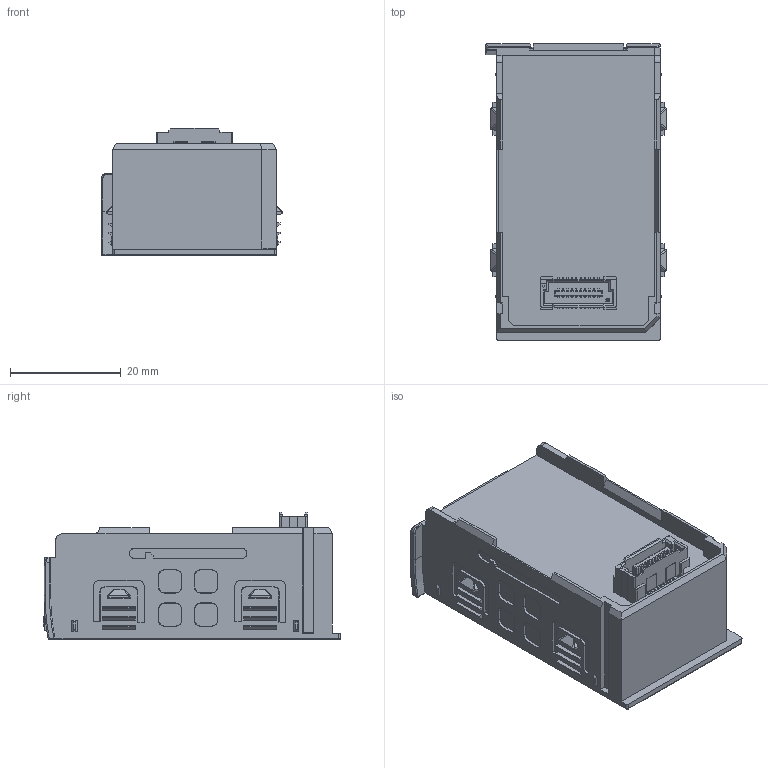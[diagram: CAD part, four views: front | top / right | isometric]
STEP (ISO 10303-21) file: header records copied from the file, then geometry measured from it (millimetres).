
FILE_DESCRIPTION((''),'2;1');
FILE_NAME('GE20-CAN-485_WX','2022-05-24T',('10002586'),(''),'CREO PARAMETRIC BY PTC INC, 2015290','CREO PARAMETRIC BY PTC INC, 2015290','');
FILE_SCHEMA(('CONFIG_CONTROL_DESIGN'));
Products named in the file (1): GE20-CAN-485_WX
Bounding box: 32.6 x 53.6 x 22.95 mm (x, y, z)
Volume: 24223.6 mm3; surface area: 8394 mm2
Topology: 1 solids, 1 shells, 1592 faces, 4664 edges, 3021 vertices
Faces by surface type: plane 1340, cylinder 167, cone 56, torus 10, bspline 8, extrusion 8, sphere 3
Entity records: 64615 total; most frequent: CARTESIAN_POINT 10957, ORIENTED_EDGE 9328, DIRECTION 8152, EDGE_CURVE 4664, VECTOR 4176, LINE 4168, VERTEX_POINT 3021, AXIS2_PLACEMENT_3D 1988
